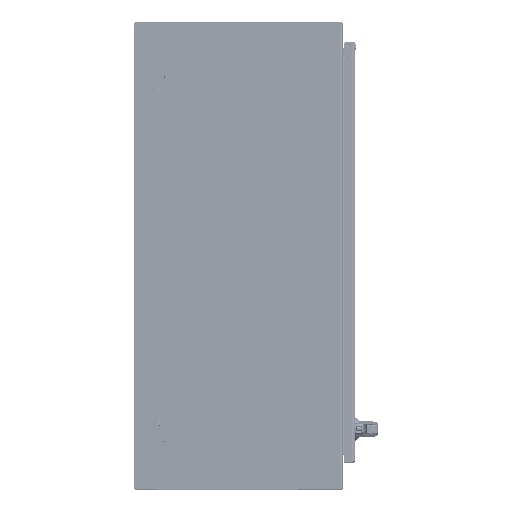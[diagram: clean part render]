
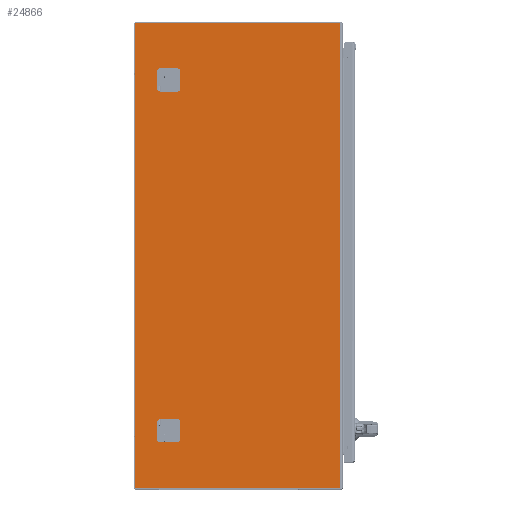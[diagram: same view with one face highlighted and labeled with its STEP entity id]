
A CAD part, top view. The second image highlights one B-rep face of the part: STEP entity #24866.
In plain terms, the highlighted planar face has unit normal (0, 0, 1) as drawn and (0, 1, 0) by its records, which use the part's own axes.
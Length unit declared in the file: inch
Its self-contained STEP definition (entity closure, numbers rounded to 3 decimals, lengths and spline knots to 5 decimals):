
#23629=CARTESIAN_POINT('',(-17.888,0.,-20.013));
#23630=DIRECTION('',(0.,1.,0.));
#23631=DIRECTION('',(0.,0.,-1.));
#23632=AXIS2_PLACEMENT_3D('',#23629,#23630,#23631);
#23637=CARTESIAN_POINT('',(-17.888,0.,20.013));
#23638=DIRECTION('',(0.,1.,0.));
#23639=DIRECTION('',(-1.,0.,0.));
#23640=AXIS2_PLACEMENT_3D('',#23637,#23638,#23639);
#23645=DIRECTION('',(0.,0.,1.));
#23646=VECTOR('',#23645,1.5);
#23647=CARTESIAN_POINT('',(-14.,0.,-15.875));
#23648=LINE('',#23647,#23646);
#23652=CARTESIAN_POINT('',(-14.25,0.,-15.875));
#23653=DIRECTION('',(0.,1.,0.));
#23654=DIRECTION('',(1.,0.,0.));
#23655=AXIS2_PLACEMENT_3D('',#23652,#23653,#23654);
#23660=DIRECTION('',(1.,0.,0.));
#23661=VECTOR('',#23660,1.5);
#23662=CARTESIAN_POINT('',(-15.75,0.,-16.125));
#23663=LINE('',#23662,#23661);
#23667=CARTESIAN_POINT('',(-15.75,0.,-15.875));
#23668=DIRECTION('',(0.,1.,0.));
#23669=DIRECTION('',(0.,0.,-1.));
#23670=AXIS2_PLACEMENT_3D('',#23667,#23668,#23669);
#23675=DIRECTION('',(0.,0.,-1.));
#23676=VECTOR('',#23675,1.5);
#23677=CARTESIAN_POINT('',(-16.,0.,-14.375));
#23678=LINE('',#23677,#23676);
#23682=CARTESIAN_POINT('',(-15.75,0.,-14.375));
#23683=DIRECTION('',(0.,1.,0.));
#23684=DIRECTION('',(-1.,0.,0.));
#23685=AXIS2_PLACEMENT_3D('',#23682,#23683,#23684);
#23690=DIRECTION('',(-1.,0.,0.));
#23691=VECTOR('',#23690,1.5);
#23692=CARTESIAN_POINT('',(-14.25,0.,-14.125));
#23693=LINE('',#23692,#23691);
#23697=CARTESIAN_POINT('',(-14.25,0.,-14.375));
#23698=DIRECTION('',(0.,1.,0.));
#23699=DIRECTION('',(0.,0.,1.));
#23700=AXIS2_PLACEMENT_3D('',#23697,#23698,#23699);
#23705=DIRECTION('',(0.,0.,1.));
#23706=VECTOR('',#23705,1.5);
#23707=CARTESIAN_POINT('',(-14.,0.,14.375));
#23708=LINE('',#23707,#23706);
#23712=CARTESIAN_POINT('',(-14.25,0.,14.375));
#23713=DIRECTION('',(0.,1.,0.));
#23714=DIRECTION('',(1.,0.,0.));
#23715=AXIS2_PLACEMENT_3D('',#23712,#23713,#23714);
#23720=DIRECTION('',(1.,0.,0.));
#23721=VECTOR('',#23720,1.5);
#23722=CARTESIAN_POINT('',(-15.75,0.,14.125));
#23723=LINE('',#23722,#23721);
#23727=CARTESIAN_POINT('',(-15.75,0.,14.375));
#23728=DIRECTION('',(0.,1.,0.));
#23729=DIRECTION('',(0.,0.,-1.));
#23730=AXIS2_PLACEMENT_3D('',#23727,#23728,#23729);
#23735=DIRECTION('',(0.,0.,-1.));
#23736=VECTOR('',#23735,1.5);
#23737=CARTESIAN_POINT('',(-16.,0.,15.875));
#23738=LINE('',#23737,#23736);
#23742=CARTESIAN_POINT('',(-15.75,0.,15.875));
#23743=DIRECTION('',(0.,1.,0.));
#23744=DIRECTION('',(-1.,0.,0.));
#23745=AXIS2_PLACEMENT_3D('',#23742,#23743,#23744);
#23750=DIRECTION('',(-1.,0.,0.));
#23751=VECTOR('',#23750,1.5);
#23752=CARTESIAN_POINT('',(-14.25,0.,16.125));
#23753=LINE('',#23752,#23751);
#23757=CARTESIAN_POINT('',(-14.25,0.,15.875));
#23758=DIRECTION('',(0.,1.,0.));
#23759=DIRECTION('',(0.,0.,1.));
#23760=AXIS2_PLACEMENT_3D('',#23757,#23758,#23759);
#23772=DIRECTION('',(0.,0.,-1.));
#23773=VECTOR('',#23772,40.026);
#23774=CARTESIAN_POINT('',(-17.948,0.,20.013));
#23775=LINE('',#23774,#23773);
#23800=DIRECTION('',(-1.,0.,0.));
#23801=VECTOR('',#23800,17.699);
#23802=CARTESIAN_POINT('',(-0.189,0.,20.073));
#23803=LINE('',#23802,#23801);
#23843=DIRECTION('',(0.,0.,1.));
#23844=VECTOR('',#23843,40.146);
#23845=CARTESIAN_POINT('',(-0.189,0.,-20.073));
#23846=LINE('',#23845,#23844);
#23951=DIRECTION('',(-1.,0.,0.));
#23952=VECTOR('',#23951,17.699);
#23953=CARTESIAN_POINT('',(-0.189,0.,-20.073));
#23954=LINE('',#23953,#23952);
#24651=CARTESIAN_POINT('',(-0.189,0.,20.073));
#24652=VERTEX_POINT('',#24651);
#24653=CARTESIAN_POINT('',(-0.189,0.,-20.073));
#24654=VERTEX_POINT('',#24653);
#24679=CARTESIAN_POINT('',(-17.888,0.,-20.073));
#24680=CARTESIAN_POINT('',(-17.948,0.,-20.013));
#24681=VERTEX_POINT('',#24679);
#24682=VERTEX_POINT('',#24680);
#24687=CARTESIAN_POINT('',(-17.948,0.,20.013));
#24688=CARTESIAN_POINT('',(-17.888,0.,20.073));
#24689=VERTEX_POINT('',#24687);
#24690=VERTEX_POINT('',#24688);
#24695=CARTESIAN_POINT('',(-14.,0.,-15.875));
#24696=CARTESIAN_POINT('',(-14.,0.,-14.375));
#24697=VERTEX_POINT('',#24695);
#24698=VERTEX_POINT('',#24696);
#24699=CARTESIAN_POINT('',(-14.25,0.,-14.125));
#24700=VERTEX_POINT('',#24699);
#24701=CARTESIAN_POINT('',(-15.75,0.,-14.125));
#24702=VERTEX_POINT('',#24701);
#24703=CARTESIAN_POINT('',(-16.,0.,-14.375));
#24704=VERTEX_POINT('',#24703);
#24705=CARTESIAN_POINT('',(-16.,0.,-15.875));
#24706=VERTEX_POINT('',#24705);
#24707=CARTESIAN_POINT('',(-15.75,0.,-16.125));
#24708=VERTEX_POINT('',#24707);
#24709=CARTESIAN_POINT('',(-14.25,0.,-16.125));
#24710=VERTEX_POINT('',#24709);
#24711=CARTESIAN_POINT('',(-14.,0.,14.375));
#24712=CARTESIAN_POINT('',(-14.,0.,15.875));
#24713=VERTEX_POINT('',#24711);
#24714=VERTEX_POINT('',#24712);
#24715=CARTESIAN_POINT('',(-14.25,0.,16.125));
#24716=VERTEX_POINT('',#24715);
#24717=CARTESIAN_POINT('',(-15.75,0.,16.125));
#24718=VERTEX_POINT('',#24717);
#24719=CARTESIAN_POINT('',(-16.,0.,15.875));
#24720=VERTEX_POINT('',#24719);
#24721=CARTESIAN_POINT('',(-16.,0.,14.375));
#24722=VERTEX_POINT('',#24721);
#24723=CARTESIAN_POINT('',(-15.75,0.,14.125));
#24724=VERTEX_POINT('',#24723);
#24725=CARTESIAN_POINT('',(-14.25,0.,14.125));
#24726=VERTEX_POINT('',#24725);
#24811=CARTESIAN_POINT('',(0.,0.,20.073));
#24812=DIRECTION('',(0.,1.,0.));
#24813=DIRECTION('',(-1.,0.,0.));
#24814=AXIS2_PLACEMENT_3D('',#24811,#24812,#24813);
#24815=PLANE('',#24814);
#24817=ORIENTED_EDGE('',*,*,#24816,.F.);
#24819=ORIENTED_EDGE('',*,*,#24818,.F.);
#24821=ORIENTED_EDGE('',*,*,#24820,.T.);
#24823=ORIENTED_EDGE('',*,*,#24822,.T.);
#24825=ORIENTED_EDGE('',*,*,#24824,.F.);
#24827=ORIENTED_EDGE('',*,*,#24826,.T.);
#24828=EDGE_LOOP('',(#24817,#24819,#24821,#24823,#24825,#24827));
#24829=FACE_OUTER_BOUND('',#24828,.F.);
#24831=ORIENTED_EDGE('',*,*,#24830,.F.);
#24833=ORIENTED_EDGE('',*,*,#24832,.T.);
#24835=ORIENTED_EDGE('',*,*,#24834,.F.);
#24837=ORIENTED_EDGE('',*,*,#24836,.T.);
#24839=ORIENTED_EDGE('',*,*,#24838,.F.);
#24841=ORIENTED_EDGE('',*,*,#24840,.T.);
#24843=ORIENTED_EDGE('',*,*,#24842,.F.);
#24845=ORIENTED_EDGE('',*,*,#24844,.T.);
#24846=EDGE_LOOP('',(#24831,#24833,#24835,#24837,#24839,#24841,#24843,#24845));
#24847=FACE_BOUND('',#24846,.F.);
#24849=ORIENTED_EDGE('',*,*,#24848,.F.);
#24851=ORIENTED_EDGE('',*,*,#24850,.T.);
#24853=ORIENTED_EDGE('',*,*,#24852,.F.);
#24855=ORIENTED_EDGE('',*,*,#24854,.T.);
#24857=ORIENTED_EDGE('',*,*,#24856,.F.);
#24859=ORIENTED_EDGE('',*,*,#24858,.T.);
#24861=ORIENTED_EDGE('',*,*,#24860,.F.);
#24863=ORIENTED_EDGE('',*,*,#24862,.T.);
#24864=EDGE_LOOP('',(#24849,#24851,#24853,#24855,#24857,#24859,#24861,#24863));
#24865=FACE_BOUND('',#24864,.F.);
#23633=CIRCLE('',#23632,0.06);
#23641=CIRCLE('',#23640,0.06);
#23656=CIRCLE('',#23655,0.25);
#23671=CIRCLE('',#23670,0.25);
#23686=CIRCLE('',#23685,0.25);
#23701=CIRCLE('',#23700,0.25);
#23716=CIRCLE('',#23715,0.25);
#23731=CIRCLE('',#23730,0.25);
#23746=CIRCLE('',#23745,0.25);
#23761=CIRCLE('',#23760,0.25);
#24816=EDGE_CURVE('',#24681,#24682,#23633,.T.);
#24818=EDGE_CURVE('',#24654,#24681,#23954,.T.);
#24820=EDGE_CURVE('',#24654,#24652,#23846,.T.);
#24822=EDGE_CURVE('',#24652,#24690,#23803,.T.);
#24824=EDGE_CURVE('',#24689,#24690,#23641,.T.);
#24826=EDGE_CURVE('',#24689,#24682,#23775,.T.);
#24830=EDGE_CURVE('',#24697,#24698,#23648,.T.);
#24832=EDGE_CURVE('',#24697,#24710,#23656,.T.);
#24834=EDGE_CURVE('',#24708,#24710,#23663,.T.);
#24836=EDGE_CURVE('',#24708,#24706,#23671,.T.);
#24838=EDGE_CURVE('',#24704,#24706,#23678,.T.);
#24840=EDGE_CURVE('',#24704,#24702,#23686,.T.);
#24842=EDGE_CURVE('',#24700,#24702,#23693,.T.);
#24844=EDGE_CURVE('',#24700,#24698,#23701,.T.);
#24848=EDGE_CURVE('',#24713,#24714,#23708,.T.);
#24850=EDGE_CURVE('',#24713,#24726,#23716,.T.);
#24852=EDGE_CURVE('',#24724,#24726,#23723,.T.);
#24854=EDGE_CURVE('',#24724,#24722,#23731,.T.);
#24856=EDGE_CURVE('',#24720,#24722,#23738,.T.);
#24858=EDGE_CURVE('',#24720,#24718,#23746,.T.);
#24860=EDGE_CURVE('',#24716,#24718,#23753,.T.);
#24862=EDGE_CURVE('',#24716,#24714,#23761,.T.);
#24866=ADVANCED_FACE('',(#24829,#24847,#24865),#24815,.T.);
